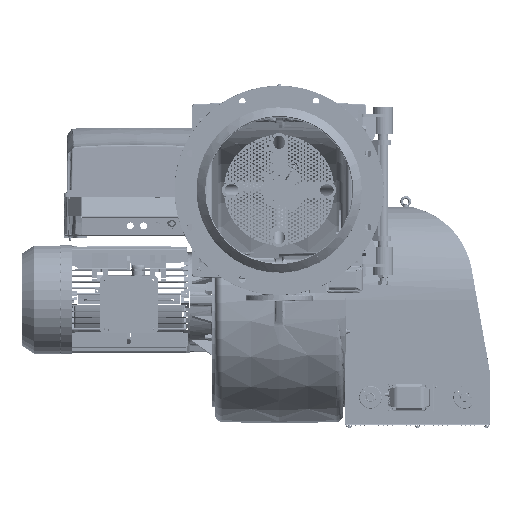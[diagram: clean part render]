
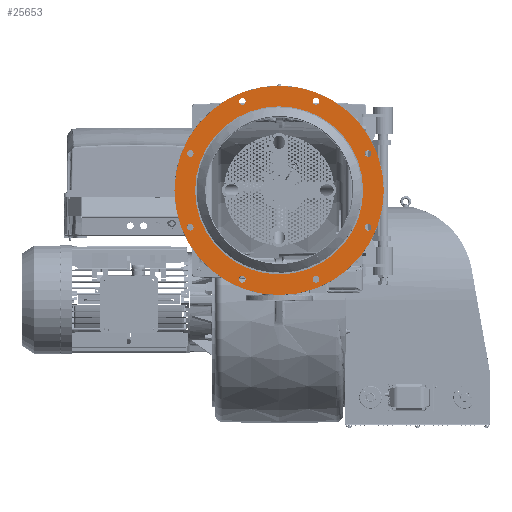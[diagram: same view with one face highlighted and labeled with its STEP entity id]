
A CAD part, top view. The second image highlights one B-rep face of the part: STEP entity #25653.
In plain terms, the highlighted planar face has unit normal (0, 0, 1).
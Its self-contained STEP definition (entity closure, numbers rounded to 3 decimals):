
#3164 = VERTEX_POINT ( 'NONE', #98967 ) ;
#5183 = CIRCLE ( 'NONE', #20976, 11. ) ;
#12855 = VERTEX_POINT ( 'NONE', #58527 ) ;
#20976 = AXIS2_PLACEMENT_3D ( 'NONE', #43057, #412617, #225402 ) ;
#25653 = ADVANCED_FACE ( 'NONE', ( #394675, #174945, #186552, #279273, #82965, #267698, #192585, #284835, #76985, #290841 ), #464437, .T. ) ;
#27260 = ORIENTED_EDGE ( 'NONE', *, *, #422541, .F. ) ;
#27302 = AXIS2_PLACEMENT_3D ( 'NONE', #388706, #425828, #91763 ) ;
#27502 = EDGE_LOOP ( 'NONE', ( #350430 ) ) ;
#30807 = EDGE_CURVE ( 'NONE', #247562, #247562, #338935, .T. ) ;
#32063 = DIRECTION ( 'NONE',  ( 0., 0., 1. ) ) ;
#43057 = CARTESIAN_POINT ( 'NONE',  ( -757.007, 120.545, -1143.443 ) ) ;
#58527 = CARTESIAN_POINT ( 'NONE',  ( -746.007, 120.545, -1143.443 ) ) ;
#76985 = FACE_BOUND ( 'NONE', #209883, .T. ) ;
#77938 = CARTESIAN_POINT ( 'NONE',  ( -345.44, 291.022, -1143.443 ) ) ;
#80439 = ORIENTED_EDGE ( 'NONE', *, *, #433934, .F. ) ;
#81226 = CIRCLE ( 'NONE', #324154, 11. ) ;
#82655 = CARTESIAN_POINT ( 'NONE',  ( -345.44, -291.022, -1143.443 ) ) ;
#82965 = FACE_BOUND ( 'NONE', #348148, .T. ) ;
#83873 = EDGE_CURVE ( 'NONE', #3164, #3164, #178536, .T. ) ;
#86947 = DIRECTION ( 'NONE',  ( 1., 0., 0. ) ) ;
#88465 = CIRCLE ( 'NONE', #331449, 275. ) ;
#91763 = DIRECTION ( 'NONE',  ( 1., 0., 0. ) ) ;
#98967 = CARTESIAN_POINT ( 'NONE',  ( -163.963, 120.545, -1143.443 ) ) ;
#104215 = EDGE_LOOP ( 'NONE', ( #113909 ) ) ;
#104715 = ORIENTED_EDGE ( 'NONE', *, *, #394927, .F. ) ;
#113909 = ORIENTED_EDGE ( 'NONE', *, *, #235938, .F. ) ;
#117862 = VERTEX_POINT ( 'NONE', #376755 ) ;
#118139 = DIRECTION ( 'NONE',  ( 1., 0., 0. ) ) ;
#130109 = EDGE_CURVE ( 'NONE', #192411, #192411, #144062, .T. ) ;
#135972 = VERTEX_POINT ( 'NONE', #478799 ) ;
#140539 = EDGE_LOOP ( 'NONE', ( #267070 ) ) ;
#144062 = CIRCLE ( 'NONE', #27302, 11. ) ;
#149683 = EDGE_LOOP ( 'NONE', ( #411180 ) ) ;
#153745 = DIRECTION ( 'NONE',  ( 1., 0., 0. ) ) ;
#155583 = CIRCLE ( 'NONE', #260865, 11. ) ;
#156295 = CARTESIAN_POINT ( 'NONE',  ( -174.963, 120.545, -1143.443 ) ) ;
#174945 = FACE_BOUND ( 'NONE', #283674, .T. ) ;
#178536 = CIRCLE ( 'NONE', #456368, 11. ) ;
#180026 = DIRECTION ( 'NONE',  ( -1., 0., 0. ) ) ;
#186529 = CIRCLE ( 'NONE', #421449, 11. ) ;
#186552 = FACE_BOUND ( 'NONE', #140539, .T. ) ;
#189095 = DIRECTION ( 'NONE',  ( 0., 0., 1. ) ) ;
#192411 = VERTEX_POINT ( 'NONE', #398742 ) ;
#192550 = AXIS2_PLACEMENT_3D ( 'NONE', #428781, #246337, #247920 ) ;
#192585 = FACE_BOUND ( 'NONE', #209820, .T. ) ;
#201474 = EDGE_CURVE ( 'NONE', #135972, #135972, #88465, .T. ) ;
#209820 = EDGE_LOOP ( 'NONE', ( #361403 ) ) ;
#209883 = EDGE_LOOP ( 'NONE', ( #459212 ) ) ;
#218085 = CARTESIAN_POINT ( 'NONE',  ( -586.53, 291.022, -1143.443 ) ) ;
#218971 = CARTESIAN_POINT ( 'NONE',  ( -163.963, -120.545, -1143.443 ) ) ;
#225402 = DIRECTION ( 'NONE',  ( 1., 0., 0. ) ) ;
#225701 = EDGE_LOOP ( 'NONE', ( #27260 ) ) ;
#226521 = DIRECTION ( 'NONE',  ( 0., 0., 1. ) ) ;
#230650 = DIRECTION ( 'NONE',  ( 0., 0., 1. ) ) ;
#231518 = AXIS2_PLACEMENT_3D ( 'NONE', #218085, #476470, #255232 ) ;
#235938 = EDGE_CURVE ( 'NONE', #366264, #366264, #155583, .T. ) ;
#239909 = EDGE_CURVE ( 'NONE', #464067, #464067, #81226, .T. ) ;
#243370 = DIRECTION ( 'NONE',  ( 1., 0., 0. ) ) ;
#246337 = DIRECTION ( 'NONE',  ( 0., 0., 1. ) ) ;
#247562 = VERTEX_POINT ( 'NONE', #310157 ) ;
#247920 = DIRECTION ( 'NONE',  ( 1., 0., 0. ) ) ;
#252300 = VERTEX_POINT ( 'NONE', #218971 ) ;
#255232 = DIRECTION ( 'NONE',  ( 1., 0., 0. ) ) ;
#255937 = CARTESIAN_POINT ( 'NONE',  ( -465.985, 0., -1143.443 ) ) ;
#260207 = DIRECTION ( 'NONE',  ( 1., 0., 0. ) ) ;
#260865 = AXIS2_PLACEMENT_3D ( 'NONE', #77938, #189095, #260207 ) ;
#267070 = ORIENTED_EDGE ( 'NONE', *, *, #239909, .F. ) ;
#267698 = FACE_BOUND ( 'NONE', #104215, .T. ) ;
#279273 = FACE_BOUND ( 'NONE', #225701, .T. ) ;
#280473 = DIRECTION ( 'NONE',  ( 0., 0., -1. ) ) ;
#283674 = EDGE_LOOP ( 'NONE', ( #319330 ) ) ;
#284835 = FACE_BOUND ( 'NONE', #27502, .T. ) ;
#290207 = CARTESIAN_POINT ( 'NONE',  ( -174.963, -120.545, -1143.443 ) ) ;
#290841 = FACE_OUTER_BOUND ( 'NONE', #337422, .T. ) ;
#297347 = DIRECTION ( 'NONE',  ( 0., 0., 1. ) ) ;
#310157 = CARTESIAN_POINT ( 'NONE',  ( -334.44, -291.022, -1143.443 ) ) ;
#319330 = ORIENTED_EDGE ( 'NONE', *, *, #130109, .F. ) ;
#319879 = CIRCLE ( 'NONE', #398908, 342.5 ) ;
#324154 = AXIS2_PLACEMENT_3D ( 'NONE', #371849, #226521, #153745 ) ;
#331449 = AXIS2_PLACEMENT_3D ( 'NONE', #255937, #364214, #180026 ) ;
#337422 = EDGE_LOOP ( 'NONE', ( #80439 ) ) ;
#338935 = CIRCLE ( 'NONE', #446730, 11. ) ;
#346556 = EDGE_CURVE ( 'NONE', #252300, #252300, #186529, .T. ) ;
#348148 = EDGE_LOOP ( 'NONE', ( #104715 ) ) ;
#350430 = ORIENTED_EDGE ( 'NONE', *, *, #346556, .F. ) ;
#361403 = ORIENTED_EDGE ( 'NONE', *, *, #83873, .F. ) ;
#364214 = DIRECTION ( 'NONE',  ( 0., 0., -1. ) ) ;
#366264 = VERTEX_POINT ( 'NONE', #470305 ) ;
#371849 = CARTESIAN_POINT ( 'NONE',  ( -757.007, -120.545, -1143.443 ) ) ;
#376755 = CARTESIAN_POINT ( 'NONE',  ( -575.53, 291.022, -1143.443 ) ) ;
#388706 = CARTESIAN_POINT ( 'NONE',  ( -586.53, -291.022, -1143.443 ) ) ;
#394498 = VERTEX_POINT ( 'NONE', #470071 ) ;
#394675 = FACE_BOUND ( 'NONE', #149683, .T. ) ;
#394927 = EDGE_CURVE ( 'NONE', #117862, #117862, #438181, .T. ) ;
#398742 = CARTESIAN_POINT ( 'NONE',  ( -575.53, -291.022, -1143.443 ) ) ;
#398908 = AXIS2_PLACEMENT_3D ( 'NONE', #432195, #280473, #243370 ) ;
#403176 = DIRECTION ( 'NONE',  ( 1., 0., 0. ) ) ;
#411180 = ORIENTED_EDGE ( 'NONE', *, *, #30807, .F. ) ;
#412617 = DIRECTION ( 'NONE',  ( 0., 0., 1. ) ) ;
#421449 = AXIS2_PLACEMENT_3D ( 'NONE', #290207, #32063, #403176 ) ;
#422541 = EDGE_CURVE ( 'NONE', #12855, #12855, #5183, .T. ) ;
#425828 = DIRECTION ( 'NONE',  ( 0., 0., 1. ) ) ;
#428781 = CARTESIAN_POINT ( 'NONE',  ( -465.985, 0., -1143.443 ) ) ;
#432195 = CARTESIAN_POINT ( 'NONE',  ( -465.985, 0., -1143.443 ) ) ;
#433934 = EDGE_CURVE ( 'NONE', #394498, #394498, #319879, .T. ) ;
#438181 = CIRCLE ( 'NONE', #231518, 11. ) ;
#446730 = AXIS2_PLACEMENT_3D ( 'NONE', #82655, #297347, #118139 ) ;
#456368 = AXIS2_PLACEMENT_3D ( 'NONE', #156295, #230650, #86947 ) ;
#459212 = ORIENTED_EDGE ( 'NONE', *, *, #201474, .T. ) ;
#464067 = VERTEX_POINT ( 'NONE', #475030 ) ;
#464437 = PLANE ( 'NONE',  #192550 ) ;
#470071 = CARTESIAN_POINT ( 'NONE',  ( -123.485, 0., -1143.443 ) ) ;
#470305 = CARTESIAN_POINT ( 'NONE',  ( -334.44, 291.022, -1143.443 ) ) ;
#475030 = CARTESIAN_POINT ( 'NONE',  ( -746.007, -120.545, -1143.443 ) ) ;
#476470 = DIRECTION ( 'NONE',  ( 0., 0., 1. ) ) ;
#478799 = CARTESIAN_POINT ( 'NONE',  ( -740.985, 0., -1143.443 ) ) ;
